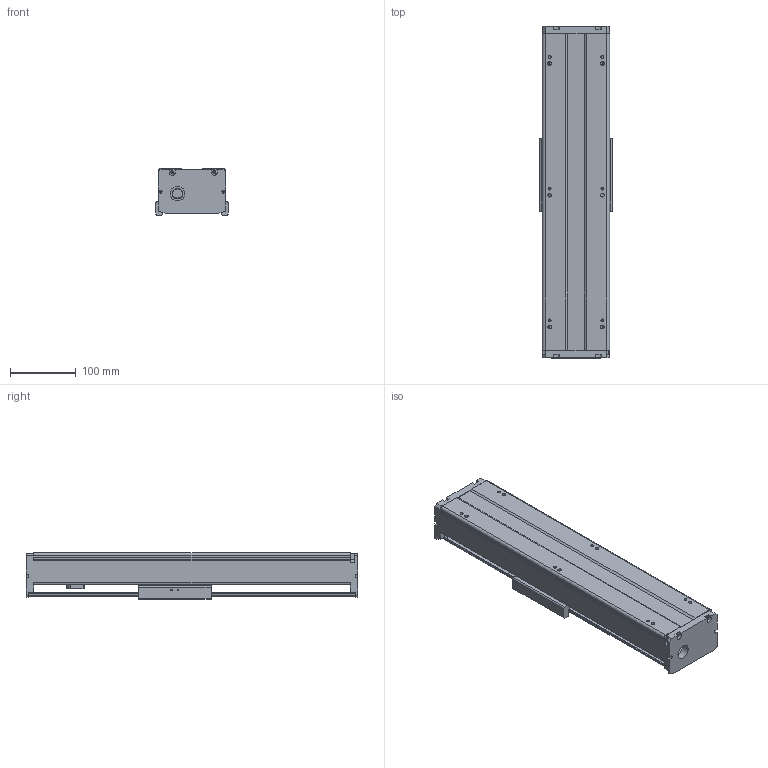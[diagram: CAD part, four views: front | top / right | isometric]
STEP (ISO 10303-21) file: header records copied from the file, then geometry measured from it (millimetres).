
FILE_DESCRIPTION(/* description */ (''),/* implementation_level */ '2;1');
FILE_NAME(/* name */ 'TKA100-250A1F0_asm1.stp',/* time_stamp */ '2017-02-20T15:01:58+08:00',/* author */ (''),/* organization */ (''),/* preprocessor_version */ 'ST-DEVELOPER v15',/* originating_system */ 'SIEMENS PLM Software NX 8.5',/* authorisation */ '');
FILE_SCHEMA (('AUTOMOTIVE_DESIGN { 1 0 10303 214 3 1 1 1 }'));
Length unit declared in the file: millimetre
Products named in the file (3): 200-02; 200-01; TKA100-250A1F0_asm1_stp
Assembly tree (2 placements, depth 2):
  TKA100-250A1F0_asm1_stp
    200-01
    200-02
Bounding box: 110 x 504 x 71 mm (x, y, z)
Volume: 1240073.9 mm3; surface area: 397761.2 mm2
Topology: 2 solids, 8 shells, 665 faces, 1775 edges, 1158 vertices
Faces by surface type: cylinder 255, plane 253, cone 104, torus 27, bspline 26
Full cylindrical faces by diameter (mm): 2.5 x6, 2.6 x8, 3.3 x8, 3.4 x8, 3.8 x4, 4.2 x15, 4.3 x4, 4.5 x4, 5 x1, 5.5 x14, 6.6 x4, 8 x5, 9 x4, 10 x6, 11 x4, 12 x6, 12.05 x2, 15.3 x1, 15.4 x1, 16 x1, 17 x2, 18 x1, 22 x1, 24 x1, 28 x5, 30 x1
Entity records: 25340 total; most frequent: CARTESIAN_POINT 9748, DIRECTION 3175, ORIENTED_EDGE 3008, EDGE_CURVE 1504, AXIS2_PLACEMENT_3D 1261, VERTEX_POINT 1091, EDGE_LOOP 946, ADVANCED_FACE 665
